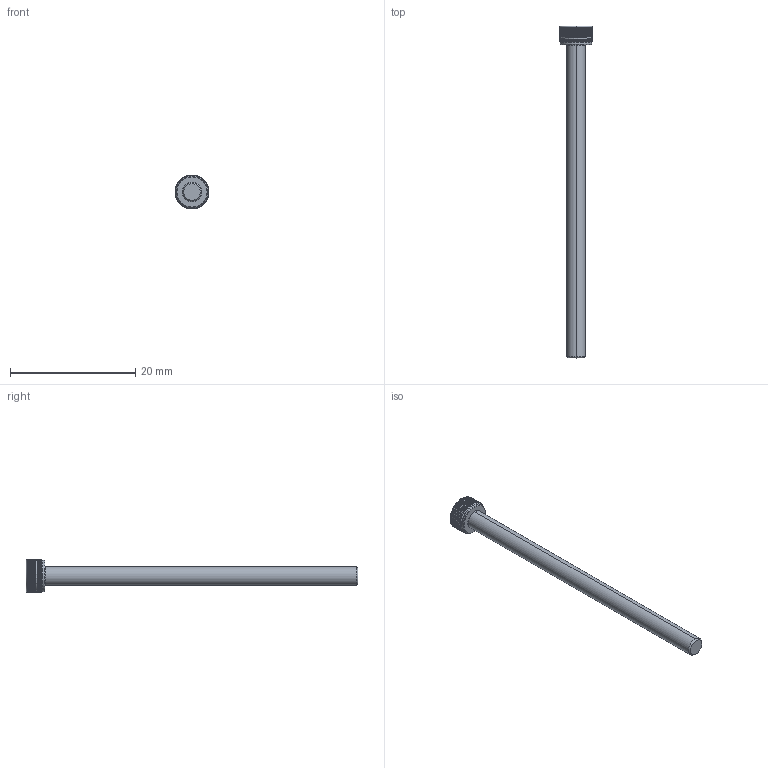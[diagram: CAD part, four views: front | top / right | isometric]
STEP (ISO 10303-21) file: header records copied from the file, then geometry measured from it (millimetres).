
FILE_DESCRIPTION (( 'STEP AP203' ), '1' );
FILE_NAME ('LGDT-304-M3x50.STEP', '2026-08-10T00:58:18', ( '' ), ( '' ), 'SwSTEP 2.0', 'SolidWorks 2020', '' );
FILE_SCHEMA (( 'CONFIG_CONTROL_DESIGN' ));
Length unit declared in the file: millimetre
Products named in the file (1): LGDT-304-M3x50
Bounding box: 5.4 x 53 x 5.4 mm (x, y, z)
Volume: 411.2 mm3; surface area: 574.9 mm2
Topology: 1 solids, 1 shells, 204 faces, 576 edges, 376 vertices
Faces by surface type: cylinder 175, cone 11, plane 10, torus 8
Entity records: 10019 total; most frequent: CARTESIAN_POINT 4860, ORIENTED_EDGE 1152, DIRECTION 988, EDGE_CURVE 576, AXIS2_PLACEMENT_3D 398, VERTEX_POINT 376, EDGE_LOOP 206, FACE_OUTER_BOUND 204
